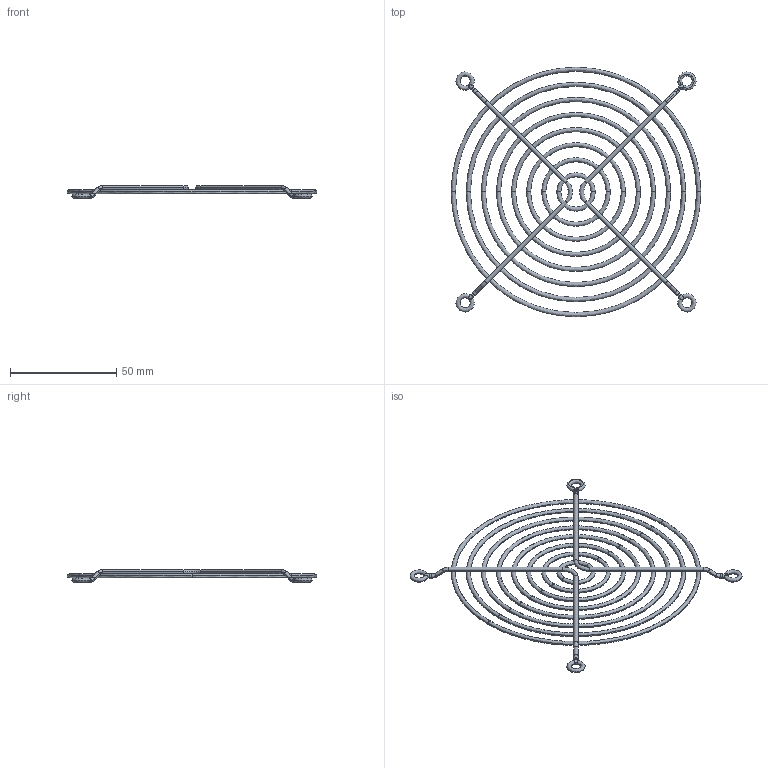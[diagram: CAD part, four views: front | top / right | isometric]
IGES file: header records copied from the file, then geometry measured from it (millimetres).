
Start section:  PTC IGES file: 102455.igs
Global section: file name: 102455.igs; native system: Creo Parametric by PTC Inc.; preprocessor: 2021284; author: dougp; organization: Unknown; date: 20220318.104602; units: inch
Bounding box: 117.65 x 117.65 x 5.85 mm (x, y, z)
Surface area: 12250 mm2 (no closed solid volume)
Topology: 0 solids, 0 shells, 96 faces, 396 edges, 396 vertices
Faces by surface type: bspline 96
